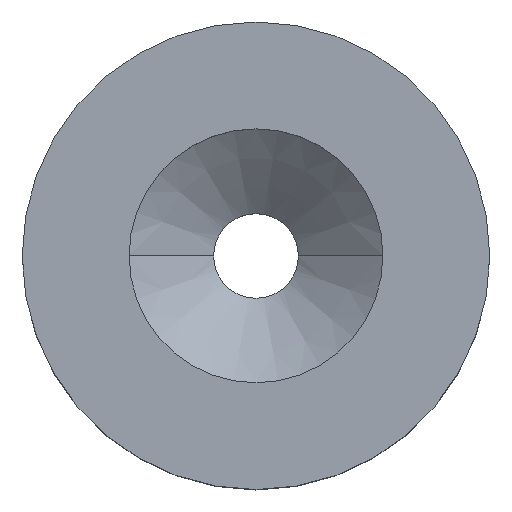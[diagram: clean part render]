
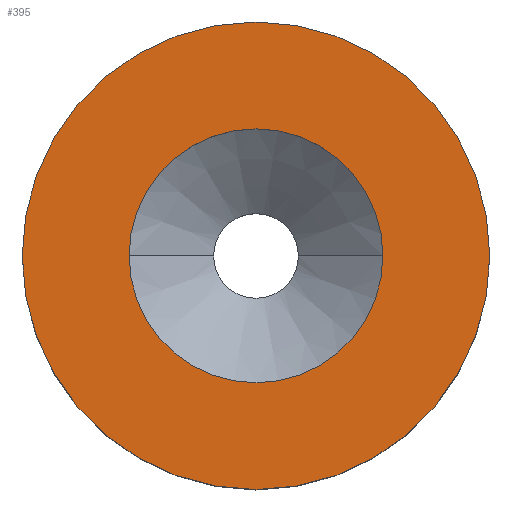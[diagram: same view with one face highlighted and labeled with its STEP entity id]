
A CAD part, top view. The second image highlights one B-rep face of the part: STEP entity #395.
In plain terms, the highlighted planar face has unit normal (0, 0, 1).
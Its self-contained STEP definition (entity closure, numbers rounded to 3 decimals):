
#3 = ORIENTED_EDGE ( 'NONE', *, *, #678, .F. ) ;
#14 = CIRCLE ( 'NONE', #401, 11.05 ) ;
#57 = VERTEX_POINT ( 'NONE', #507 ) ;
#69 = EDGE_CURVE ( 'NONE', #57, #245, #14, .T. ) ;
#92 = AXIS2_PLACEMENT_3D ( 'NONE', #596, #162, #370 ) ;
#100 = CIRCLE ( 'NONE', #491, 11.05 ) ;
#101 = CARTESIAN_POINT ( 'NONE',  ( -6., 0., 11.4 ) ) ;
#121 = EDGE_CURVE ( 'NONE', #245, #57, #100, .T. ) ;
#128 = CARTESIAN_POINT ( 'NONE',  ( -11.05, 0., 11.4 ) ) ;
#138 = ORIENTED_EDGE ( 'NONE', *, *, #165, .F. ) ;
#161 = DIRECTION ( 'NONE',  ( 1., 0., 0. ) ) ;
#162 = DIRECTION ( 'NONE',  ( 0., 0., 1. ) ) ;
#165 = EDGE_CURVE ( 'NONE', #630, #210, #513, .T. ) ;
#169 = CARTESIAN_POINT ( 'NONE',  ( 0., 0., 11.4 ) ) ;
#199 = PLANE ( 'NONE',  #455 ) ;
#210 = VERTEX_POINT ( 'NONE', #316 ) ;
#215 = EDGE_LOOP ( 'NONE', ( #645, #592 ) ) ;
#245 = VERTEX_POINT ( 'NONE', #128 ) ;
#265 = DIRECTION ( 'NONE',  ( 0., 0., 1. ) ) ;
#316 = CARTESIAN_POINT ( 'NONE',  ( 6., 0., 11.4 ) ) ;
#329 = CARTESIAN_POINT ( 'NONE',  ( 0., 0., 11.4 ) ) ;
#343 = FACE_OUTER_BOUND ( 'NONE', #215, .T. ) ;
#370 = DIRECTION ( 'NONE',  ( 1., 0., 0. ) ) ;
#395 = ADVANCED_FACE ( 'NONE', ( #680, #343 ), #199, .F. ) ;
#401 = AXIS2_PLACEMENT_3D ( 'NONE', #450, #559, #679 ) ;
#409 = CARTESIAN_POINT ( 'NONE',  ( 11.05, 0., 11.4 ) ) ;
#450 = CARTESIAN_POINT ( 'NONE',  ( 0., 0., 11.4 ) ) ;
#455 = AXIS2_PLACEMENT_3D ( 'NONE', #409, #569, #624 ) ;
#491 = AXIS2_PLACEMENT_3D ( 'NONE', #329, #265, #593 ) ;
#493 = CIRCLE ( 'NONE', #92, 6. ) ;
#507 = CARTESIAN_POINT ( 'NONE',  ( 11.05, 0., 11.4 ) ) ;
#513 = CIRCLE ( 'NONE', #634, 6. ) ;
#559 = DIRECTION ( 'NONE',  ( 0., 0., 1. ) ) ;
#569 = DIRECTION ( 'NONE',  ( 0., 0., -1. ) ) ;
#586 = DIRECTION ( 'NONE',  ( 0., 0., 1. ) ) ;
#592 = ORIENTED_EDGE ( 'NONE', *, *, #121, .T. ) ;
#593 = DIRECTION ( 'NONE',  ( 1., 0., 0. ) ) ;
#596 = CARTESIAN_POINT ( 'NONE',  ( 0., 0., 11.4 ) ) ;
#624 = DIRECTION ( 'NONE',  ( -1., 0., 0. ) ) ;
#630 = VERTEX_POINT ( 'NONE', #101 ) ;
#634 = AXIS2_PLACEMENT_3D ( 'NONE', #169, #586, #161 ) ;
#645 = ORIENTED_EDGE ( 'NONE', *, *, #69, .T. ) ;
#678 = EDGE_CURVE ( 'NONE', #210, #630, #493, .T. ) ;
#679 = DIRECTION ( 'NONE',  ( 1., 0., 0. ) ) ;
#680 = FACE_BOUND ( 'NONE', #693, .T. ) ;
#693 = EDGE_LOOP ( 'NONE', ( #3, #138 ) ) ;
